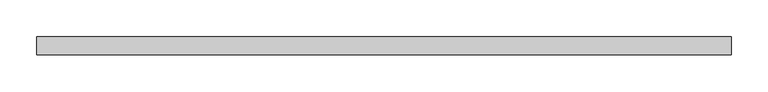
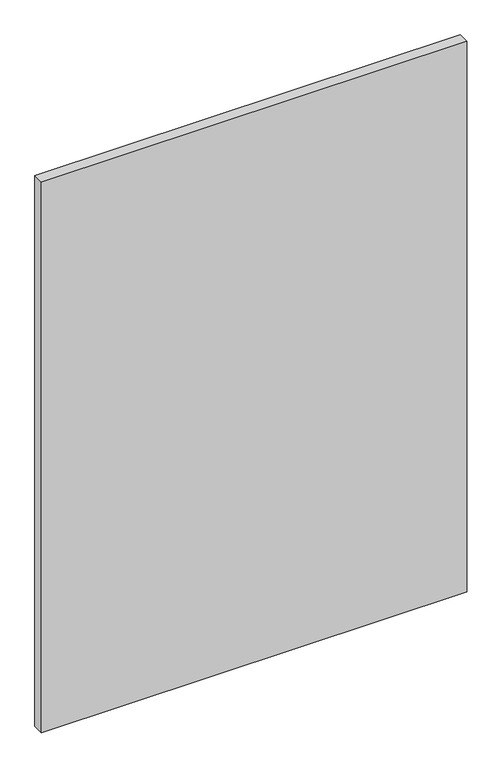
"""IFC4 building model written with IfcOpenShell, lengths in millimetres: plate geometry, Системная панель : С остеклением."""

from ifc_helpers import new_model, si_unit, origin, origin_with_axes, place, context, project, spatial, polyline, outline, extrude, source, transform, mapped, element, save


def plate_a854c022(model_context):
    return source(origin(), model_context, "Body", "SweptSolid", [
        extrude(outline(polyline([(475.0, -49.5), (-475.0, -49.5), (-475.0, -24.5), (475.0, -24.5), (475.0, -49.5)])), origin_with_axes(), (0.0, 0.0, 1.0), 1300.0),
    ])


if __name__ == "__main__":
    model = new_model("IFC4")
    model_context = context("Model", 3, world=origin())
    ifc_project = project(units=[si_unit("LENGTHUNIT", "METRE", prefix="MILLI")], contexts=[model_context])
    site = spatial("IfcSite", under=ifc_project)
    building = spatial("IfcBuilding", under=site)
    placement = place(None, origin())
    plate_shape = plate_a854c022(model_context)
    element("IfcPlate", 1, ObjectType="Системная панель : С остеклением", at=placement, inside=building, context=model_context, shape_type="MappedRepresentation", body=[
        mapped(plate_shape, transform((0.0, 0.0, 0.0), x_axis=(1.0, 0.0, 0.0), y_axis=(0.0, 1.0, 0.0), z_axis=(0.0, 0.0, 1.0))),
    ])
    save(model, "model.ifc")
